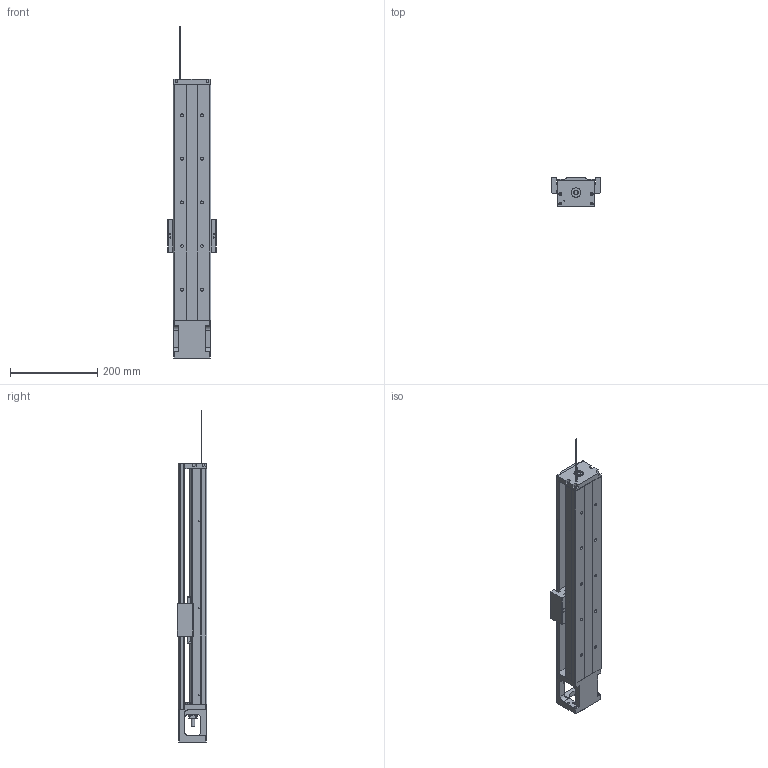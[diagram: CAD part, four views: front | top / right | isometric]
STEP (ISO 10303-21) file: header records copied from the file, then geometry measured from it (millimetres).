
FILE_DESCRIPTION(/* description */ (''),/* implementation_level */ '2;1');
FILE_NAME(/* name */ '46L-540C.stp',/* time_stamp */ '2016-12-20T13:57:32+08:00',/* author */ (''),/* organization */ (''),/* preprocessor_version */ 'ST-DEVELOPER v11',/* originating_system */ 'SIEMENS UGS NX 6.0',/* authorisation */ '');
FILE_SCHEMA (('AUTOMOTIVE_DESIGN { 1 0 10303 214 1 1 1 1 }'));
Length unit declared in the file: millimetre
Products named in the file (1): model4
Bounding box: 112 x 68 x 761.89 mm (x, y, z)
Volume: 1764802.3 mm3; surface area: 438561.3 mm2
Topology: 7 solids, 15 shells, 708 faces, 1852 edges, 1218 vertices
Faces by surface type: plane 341, cylinder 255, cone 57, bspline 47, torus 8
Full cylindrical faces by diameter (mm): 2.11 x4, 2.15 x6, 2.42 x8, 2.5 x4, 3 x6, 3.2 x4, 3.3 x12, 3.4 x8, 4 x4, 4.2 x4, 4.5 x8, 5 x14, 6 x8, 6.35 x2, 6.6 x10, 8 x1, 9.6 x1, 10 x3, 11 x10, 12 x1, 14.95 x2, 15 x1, 16 x2, 22 x3, 27.5 x1, 44 x1, 50 x1
Entity records: 32047 total; most frequent: CARTESIAN_POINT 13012, ORIENTED_EDGE 3200, DIRECTION 3142, EDGE_CURVE 1600, AXIS2_PLACEMENT_3D 1150, VERTEX_POINT 1144, EDGE_LOOP 996, LINE 842
